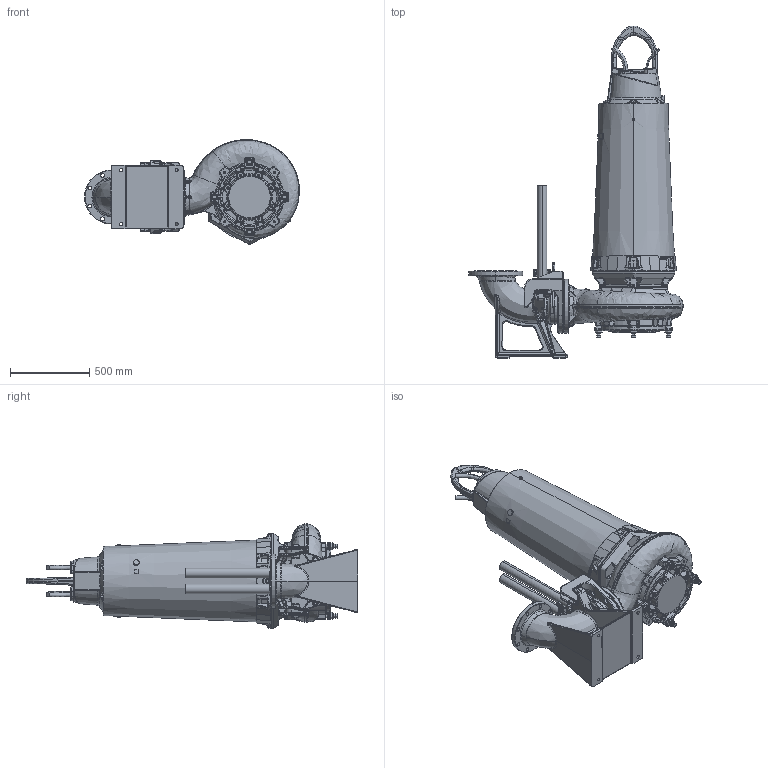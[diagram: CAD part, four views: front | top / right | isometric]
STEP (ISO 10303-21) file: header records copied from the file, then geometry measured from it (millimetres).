
FILE_DESCRIPTION (( 'STEP AP214' ), '1' );
FILE_NAME ('PE5_XFP205J-CB2_WET 2guide_B_NG2.STEP', '2017-02-17T10:54:05', ( '' ), ( '' ), 'SwSTEP 2.0', 'SolidWorks 2017', '' );
FILE_SCHEMA (( 'AUTOMOTIVE_DESIGN' ));
Length unit declared in the file: millimetre
Products named in the file (1): PE5_XFP205J-CB2_WET 2guide_B_NG2
Bounding box: 1353.1 x 2090.67 x 659.09 mm (x, y, z)
Volume: 335776036.2 mm3; surface area: 5987805.5 mm2
Topology: 4 solids, 19 shells, 4653 faces, 11540 edges, 6813 vertices
Faces by surface type: bspline 1499, plane 1078, cylinder 1057, torus 469, cone 426, sphere 124
Entity records: 301357 total; most frequent: CARTESIAN_POINT 152689, ORIENTED_EDGE 22660, DIRECTION 17589, EDGE_CURVE 11330, AXIS2_PLACEMENT_3D 7116, VERTEX_POINT 6807, EDGE_LOOP 4843, UNCERTAINTY_MEASURE_WITH_UNIT 4659
